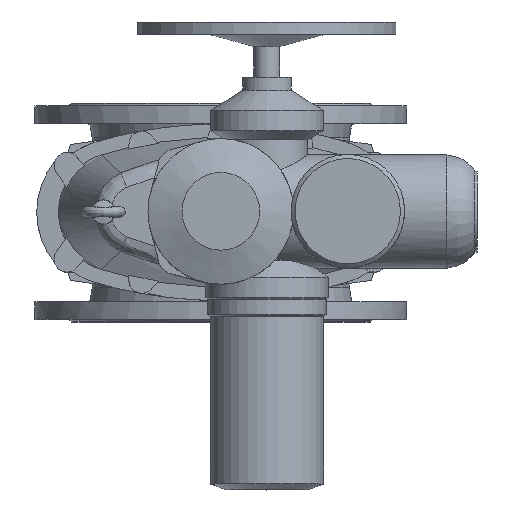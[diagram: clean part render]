
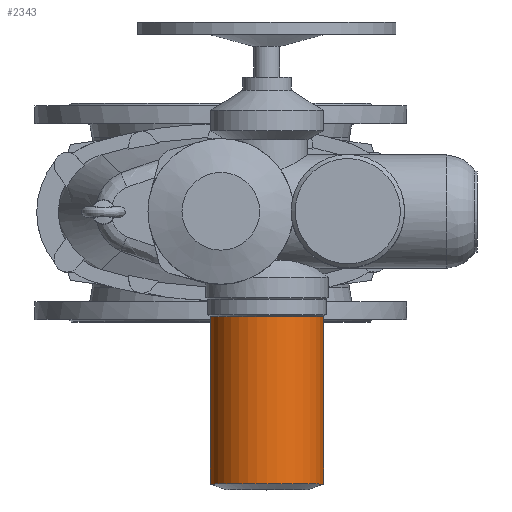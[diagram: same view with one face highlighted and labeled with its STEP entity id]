
A CAD part, top view. The second image highlights one B-rep face of the part: STEP entity #2343.
In plain terms, the highlighted cylindrical face has radius 70 mm (diameter 140 mm), a full revolution.
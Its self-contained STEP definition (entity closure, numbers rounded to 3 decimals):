
#2343=ADVANCED_FACE('',(#21608,#21610),#21612,.T.);
#21608=FACE_OUTER_BOUND('',#21609,.T.);
#21609=EDGE_LOOP('',(#24162));
#21610=FACE_OUTER_BOUND('',#21611,.T.);
#21611=EDGE_LOOP('',(#24163));
#21612=CYLINDRICAL_SURFACE('',#21613,70.);
#21613=AXIS2_PLACEMENT_3D('',#21614,#21615,#21616);
#21614=CARTESIAN_POINT('',(57.,-336.721,856.5));
#21615=DIRECTION('',(0.,1.,0.));
#21616=DIRECTION('',(0.,0.,1.));
#24162=ORIENTED_EDGE('',*,*,#25555,.F.);
#24163=ORIENTED_EDGE('',*,*,#25565,.T.);
#25555=EDGE_CURVE('',#27041,#27041,#27042,.T.);
#25565=EDGE_CURVE('',#27057,#27057,#27058,.T.);
#27041=VERTEX_POINT('',#34558);
#27042=CIRCLE('',#34559,70.);
#27057=VERTEX_POINT('',#34600);
#27058=CIRCLE('',#34601,70.);
#34558=CARTESIAN_POINT('',(57.,-129.807,926.5));
#34559=AXIS2_PLACEMENT_3D('',#34560,#34561,#34562);
#34560=CARTESIAN_POINT('',(57.,-129.807,856.5));
#34561=DIRECTION('',(0.,1.,0.));
#34562=DIRECTION('',(0.,0.,1.));
#34600=CARTESIAN_POINT('',(57.,-336.721,926.5));
#34601=AXIS2_PLACEMENT_3D('',#34602,#34603,#34604);
#34602=CARTESIAN_POINT('',(57.,-336.721,856.5));
#34603=DIRECTION('',(0.,1.,0.));
#34604=DIRECTION('',(0.,0.,1.));
